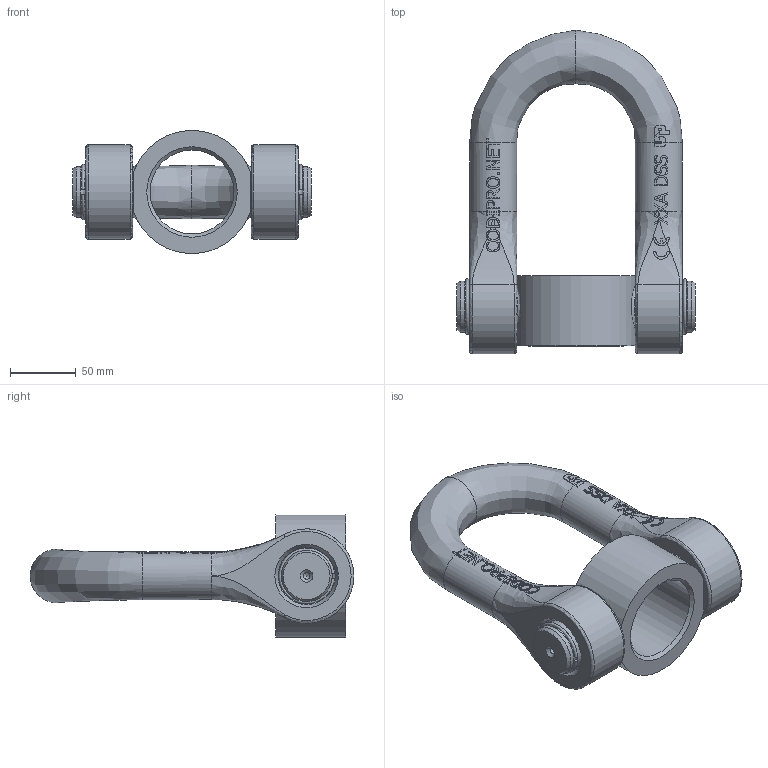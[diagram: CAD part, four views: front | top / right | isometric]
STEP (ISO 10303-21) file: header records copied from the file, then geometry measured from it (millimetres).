
FILE_DESCRIPTION(/* description */ (''),/* implementation_level */ '2;1');
FILE_NAME(/* name */ 'W:\CODIPRO\DOCUMENTS\Plans A NE PAS DIFFUSER !!!\Fichiers STEP\Gamme 2018\Produits GRADUP\DSS UP\DSS_N4X64_UP.stp',/* time_stamp */ '2017-10-24T11:55:07+02:00',/* author */ ('rklenes'),/* organization */ (''),/* preprocessor_version */ 'ST-DEVELOPER v16.5',/* originating_system */ 'Autodesk Inventor 2017',/* authorisation */ '');
FILE_SCHEMA (('AUTOMOTIVE_DESIGN { 1 0 10303 214 3 1 1 }'));
Length unit declared in the file: millimetre
Products named in the file (4): DSS_N4BISX64; DSM_N4X64; DSM_N4; DIN 7993 - A 40
Assembly tree (4 placements, depth 2):
  DSS_N4BISX64
    DSM_N4X64
    DSM_N4
    DIN 7993 - A 40  x2
Bounding box: 182 x 247 x 93.66 mm (x, y, z)
Volume: 947559.4 mm3; surface area: 126639.7 mm2
Topology: 4 solids, 4 shells, 406 faces, 1145 edges, 764 vertices
Faces by surface type: plane 167, bspline 144, cylinder 69, cone 14, torus 12
Full cylindrical faces by diameter (mm): 4.917 x2, 36 x2, 39 x4, 40.2 x2, 64 x1
Entity records: 16728 total; most frequent: CARTESIAN_POINT 7109, ORIENTED_EDGE 2208, DIRECTION 1572, EDGE_CURVE 1104, VERTEX_POINT 752, AXIS2_PLACEMENT_3D 581, EDGE_LOOP 454, LINE 410
